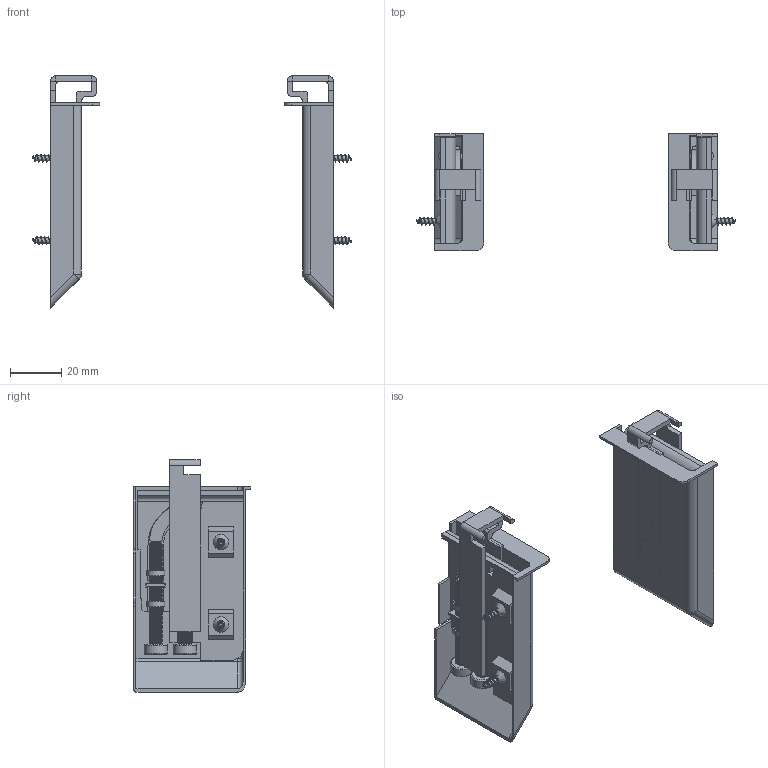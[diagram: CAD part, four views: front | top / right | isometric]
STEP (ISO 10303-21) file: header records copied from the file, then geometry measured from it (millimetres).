
FILE_DESCRIPTION(/* description */ (''),/* implementation_level */ '2;1');
FILE_NAME(/* name */ 'C:\Users\dmitruk\Documents\WORK\Навесы\STARK\навес старк.stp',/* time_stamp */ '2022-04-25T10:21:47+03:00',/* author */ ('dmitruk'),/* organization */ (''),/* preprocessor_version */ 'ST-DEVELOPER v16.5',/* originating_system */ 'Autodesk Inventor 2017',/* authorisation */ '');
FILE_SCHEMA (('AUTOMOTIVE_DESIGN { 1 0 10303 214 3 1 1 }'));
Products named in the file (15): навес старк; навес старк 
правый; Твердое \X2\04420435043B043E
\X0\1; Твердое \X2\04420435043B043E
\X0\2; Твердое \X2\04420435043B043E
\X0\3; Твердое \X2\04420435043B043E
\X0\4; Твердое \X2\04420435043B043E
\X0\5; навес старк 
левый; Твердое \X2\04420435043B043E
\X0\1_1; Твердое \X2\04420435043B043E
\X0\2_1; Твердое \X2\04420435043B043E
\X0\3_1; Твердое \X2\04420435043B043E
\X0\4_1; Твердое \X2\04420435043B043E
\X0\5_1; p1; p1_1
Assembly tree (17 placements, depth 4):
  навес старк
    навес старк 
правый
      Твердое \X2\04420435043B043E
\X0\1
      Твердое \X2\04420435043B043E
\X0\2
      Твердое \X2\04420435043B043E
\X0\3
      Твердое \X2\04420435043B043E
\X0\4
      Твердое \X2\04420435043B043E
\X0\5
      p1  x2
        p1_1
    навес старк 
левый
      Твердое \X2\04420435043B043E
\X0\1_1
      Твердое \X2\04420435043B043E
\X0\2_1
      Твердое \X2\04420435043B043E
\X0\3_1
      Твердое \X2\04420435043B043E
\X0\4_1
      Твердое \X2\04420435043B043E
\X0\5_1
      p1  x2
        p1_1
Bounding box: 124.29 x 45.53 x 90.22 mm (x, y, z)
Volume: 28774.5 mm3; surface area: 47938.8 mm2
Topology: 18 solids, 18 shells, 630 faces, 1698 edges, 1094 vertices
Faces by surface type: plane 430, cylinder 104, bspline 40, torus 26, cone 26, sphere 4
Full cylindrical faces by diameter (mm): 4 x2, 5 x2, 6 x8, 7 x4, 8.944 x2, 9 x4, 10 x2
Entity records: 42509 total; most frequent: CARTESIAN_POINT 28120, ORIENTED_EDGE 2972, DIRECTION 2859, EDGE_CURVE 1486, LINE 1077, VECTOR 1077, VERTEX_POINT 974, AXIS2_PLACEMENT_3D 891
